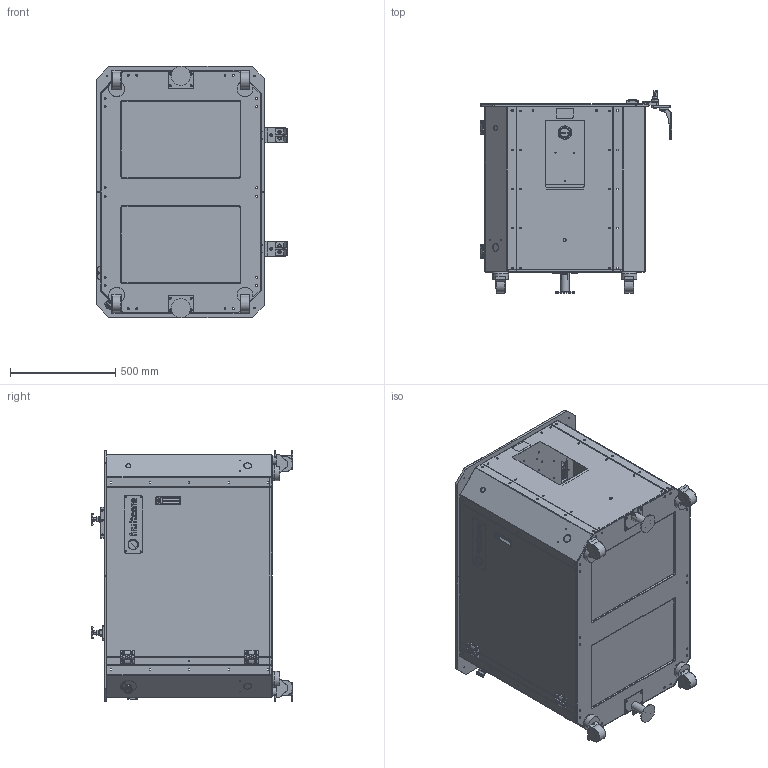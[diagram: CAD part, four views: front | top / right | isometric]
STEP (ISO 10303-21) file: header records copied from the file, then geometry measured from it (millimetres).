
FILE_DESCRIPTION (( 'STEP AP214' ), '1' );
FILE_NAME ('MRB_M_2021_06.STEP', '2021-05-27T07:02:05', ( '' ), ( '' ), 'SwSTEP 2.0', 'SolidWorks 2017', '' );
FILE_SCHEMA (( 'AUTOMOTIVE_DESIGN' ));
Length unit declared in the file: millimetre
Products named in the file (1): MRB_M_2021_06
Bounding box: 912.18 x 960.12 x 1196 mm (x, y, z)
Surface area: 10239929.9 mm2 (no closed solid volume)
Topology: 0 solids, 107 shells, 4129 faces, 11460 edges, 7441 vertices
Faces by surface type: plane 2057, cylinder 1449, bspline 393, cone 177, torus 52, sphere 1
Full cylindrical faces by diameter (mm): 4.2 x4, 5 x15, 5.05 x8, 5.5 x16, 5.8 x4, 6 x4, 6.4 x10, 6.6 x12, 6.8 x108, 7 x8, 8.5 x12, 8.8 x8, 9 x49, 10 x16, 11 x8, 12 x2, 13.4 x1, 14 x4, 16 x4, 18.5 x2, 20.4 x1, 22 x2, 23.3 x1, 25 x1, 28 x1, 28.4 x1, 30 x1, 35 x4, 38 x2, 40 x3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
Entity records: 186457 total; most frequent: CARTESIAN_POINT 38782, ORIENTED_EDGE 20827, DIRECTION 19674, EDGE_CURVE 10901, VERTEX_POINT 7376, LINE 6638, VECTOR 6638, AXIS2_PLACEMENT_3D 6518
